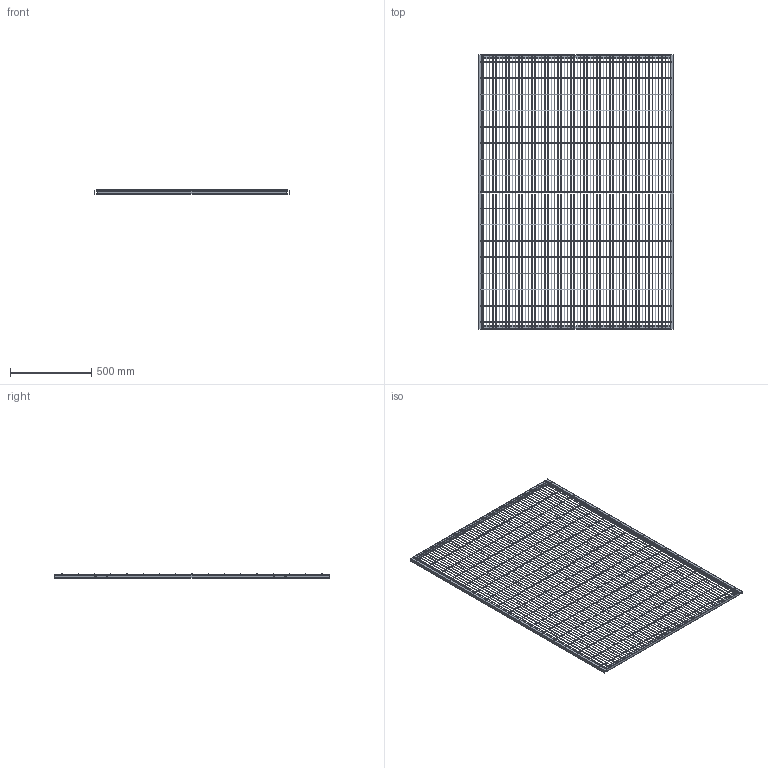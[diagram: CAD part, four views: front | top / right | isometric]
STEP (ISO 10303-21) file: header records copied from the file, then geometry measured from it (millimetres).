
FILE_DESCRIPTION (( 'STEP AP203' ), '1' );
FILE_NAME ('Framed Panel 1200 x 1688.STEP', '2023-09-21T16:28:10', ( '' ), ( '' ), 'SwSTEP 2.0', 'SolidWorks 2023', '' );
FILE_SCHEMA (( 'CONFIG_CONTROL_DESIGN' ));
Length unit declared in the file: millimetre
Products named in the file (1): Framed Panel 1200 x 1688
Bounding box: 1200 x 1688 x 26 mm (x, y, z)
Volume: 1442452.6 mm3; surface area: 1925795.9 mm2
Topology: 79 solids, 79 shells, 404 faces, 738 edges, 492 vertices
Faces by surface type: cylinder 214, plane 190
Entity records: 10131 total; most frequent: DIRECTION 1976, CARTESIAN_POINT 1635, ORIENTED_EDGE 1476, AXIS2_PLACEMENT_3D 833, EDGE_CURVE 738, VERTEX_POINT 492, EDGE_LOOP 444, CIRCLE 428
